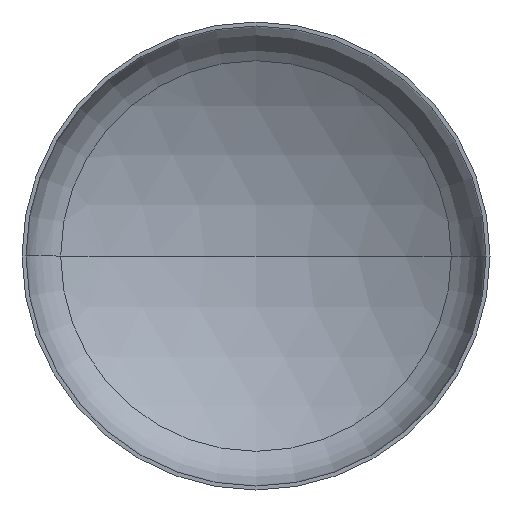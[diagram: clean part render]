
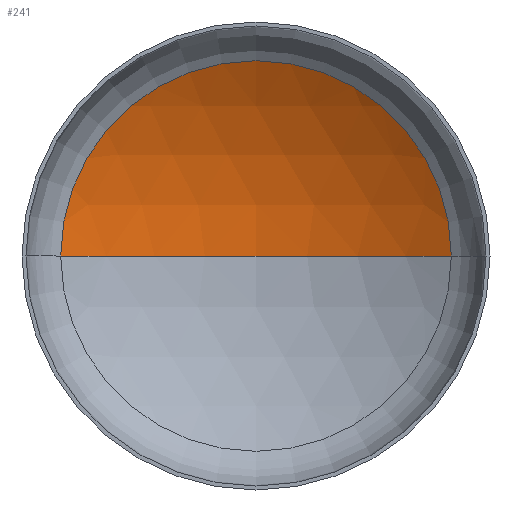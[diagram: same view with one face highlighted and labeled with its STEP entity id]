
A CAD part, front view. The second image highlights one B-rep face of the part: STEP entity #241.
In plain terms, the highlighted spherical face has radius 1600 mm.
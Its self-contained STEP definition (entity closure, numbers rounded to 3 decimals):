
#5 = ORIENTED_EDGE ( 'NONE', *, *, #167, .T. ) ;
#13 = CIRCLE ( 'NONE', #55, 1600. ) ;
#16 = EDGE_LOOP ( 'NONE', ( #128, #5, #277 ) ) ;
#20 = AXIS2_PLACEMENT_3D ( 'NONE', #30, #240, #51 ) ;
#30 = CARTESIAN_POINT ( 'NONE',  ( 0., -1045.532, 0. ) ) ;
#37 = VERTEX_POINT ( 'NONE', #265 ) ;
#38 = VERTEX_POINT ( 'NONE', #250 ) ;
#43 = AXIS2_PLACEMENT_3D ( 'NONE', #276, #273, #246 ) ;
#51 = DIRECTION ( 'NONE',  ( -1., 0., 0. ) ) ;
#52 = AXIS2_PLACEMENT_3D ( 'NONE', #187, #208, #210 ) ;
#55 = AXIS2_PLACEMENT_3D ( 'NONE', #219, #258, #257 ) ;
#102 = VERTEX_POINT ( 'NONE', #239 ) ;
#128 = ORIENTED_EDGE ( 'NONE', *, *, #168, .F. ) ;
#153 = SPHERICAL_SURFACE ( 'NONE', #20, 1600. ) ;
#165 = EDGE_CURVE ( 'NONE', #102, #38, #235, .T. ) ;
#167 = EDGE_CURVE ( 'NONE', #37, #102, #13, .T. ) ;
#168 = EDGE_CURVE ( 'NONE', #37, #38, #305, .T. ) ;
#187 = CARTESIAN_POINT ( 'NONE',  ( 0., 319.469, 0. ) ) ;
#208 = DIRECTION ( 'NONE',  ( 0., -1., 0. ) ) ;
#210 = DIRECTION ( 'NONE',  ( 1., 0., 0. ) ) ;
#219 = CARTESIAN_POINT ( 'NONE',  ( 0., -1045.532, 0. ) ) ;
#235 = CIRCLE ( 'NONE', #52, 834.729 ) ;
#239 = CARTESIAN_POINT ( 'NONE',  ( 834.729, 319.469, 0. ) ) ;
#240 = DIRECTION ( 'NONE',  ( 0., 0., -1. ) ) ;
#241 = ADVANCED_FACE ( 'NONE', ( #298 ), #153, .F. ) ;
#246 = DIRECTION ( 'NONE',  ( 1., 0., 0. ) ) ;
#250 = CARTESIAN_POINT ( 'NONE',  ( -834.729, 319.469, 0. ) ) ;
#257 = DIRECTION ( 'NONE',  ( -1., 0., 0. ) ) ;
#258 = DIRECTION ( 'NONE',  ( 0., 0., -1. ) ) ;
#265 = CARTESIAN_POINT ( 'NONE',  ( 0., 554.468, 0. ) ) ;
#273 = DIRECTION ( 'NONE',  ( 0., 0., 1. ) ) ;
#276 = CARTESIAN_POINT ( 'NONE',  ( 0., -1045.532, 0. ) ) ;
#277 = ORIENTED_EDGE ( 'NONE', *, *, #165, .T. ) ;
#298 = FACE_OUTER_BOUND ( 'NONE', #16, .T. ) ;
#305 = CIRCLE ( 'NONE', #43, 1600. ) ;
